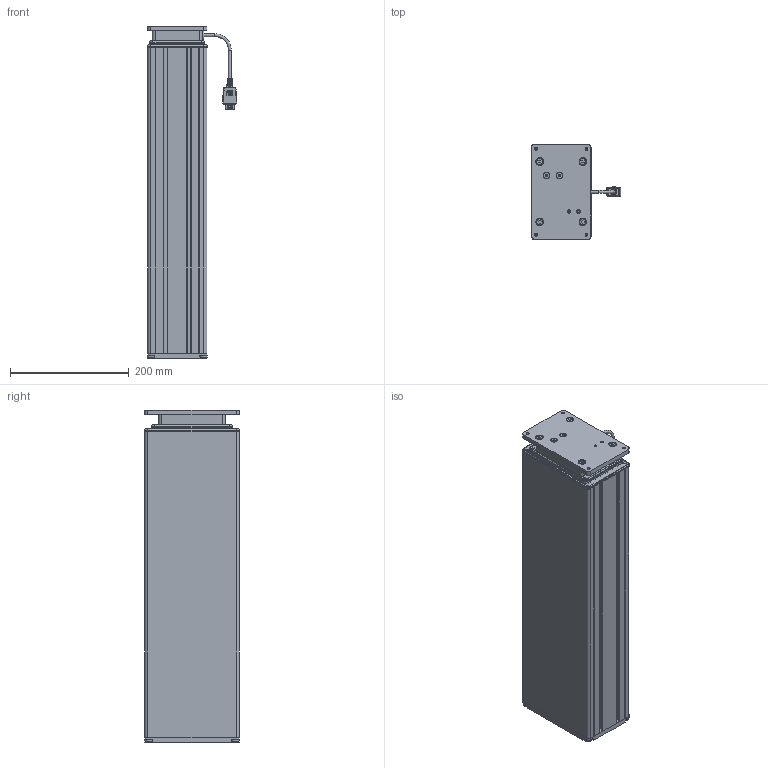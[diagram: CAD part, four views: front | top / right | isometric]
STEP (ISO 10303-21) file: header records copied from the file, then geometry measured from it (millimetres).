
FILE_DESCRIPTION(/* description */ ('Unknown'),/* implementation_level */ '2;1');
FILE_NAME(/* name */ '911.20001_01-eingefahren',/* time_stamp */ '2024-11-07T11:09:42+01:00',/* author */ ('Unknown'),/* organization */ ('Unknown'),/* preprocessor_version */ 'ST-DEVELOPER v18.104',/* originating_system */ 'Solid Edge',/* authorisation */ 'Unknown');
FILE_SCHEMA (('AUTOMOTIVE_DESIGN {1 0 10303 214 3 1 1}'));
Products named in the file (25): 911.20001; 119.00570; 124.00245; 142.00154; 110.00040_eingefahren2; 126.00188; 119.00573; 126.00191; 119.00571; 119.00574; 142.00039; 119.00572; 142.00303; 142.00304; 142.00043; 127.00452; 128.00078; 128.00079; 126.00192; 127.00450; 124.00129; Kabel Molex; 142.00349; 142.00329; 142.00294
Assembly tree (40 placements, depth 2):
  911.20001
    119.00570
    124.00245
    142.00154  x4
    110.00040_eingefahren2
    126.00188
    119.00573  x2
    126.00191
    119.00571  x2
    119.00574  x2
    142.00039  x4
    119.00572  x2
    142.00303  x4
    142.00304
    142.00043  x2
    127.00452
    128.00078
    128.00079
    126.00192
    127.00450
    124.00129
    Kabel Molex
    142.00349  x2
    142.00329  x2
    142.00294
Bounding box: 150.67 x 160.4 x 559.99 mm (x, y, z)
Volume: 4536213.1 mm3; surface area: 2146151.6 mm2
Topology: 40 solids, 61 shells, 2768 faces, 7187 edges, 4610 vertices
Faces by surface type: plane 1447, cylinder 850, torus 260, cone 159, bspline 36, sphere 16
Full cylindrical faces by diameter (mm): 2 x14, 2.44 x1, 2.8 x8, 3.621 x4, 4 x32, 4.134 x8, 4.2 x14, 4.917 x6, 5 x10, 5.3 x2, 5.5 x7, 6 x12, 6.2 x5, 6.3 x2, 6.5 x4, 6.647 x4, 7 x2, 7.1 x1, 7.4 x4, 7.5 x1, 8 x2, 9 x1, 10 x6, 10.5 x1, 10.6 x2, 11 x2, 11.8 x2, 12 x12, 13.6 x1, 14 x1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
Entity records: 85683 total; most frequent: CARTESIAN_POINT 16231, DIRECTION 12858, ORIENTED_EDGE 12182, EDGE_CURVE 6091, AXIS2_PLACEMENT_3D 4773, VERTEX_POINT 3994, LINE 3312, VECTOR 3312
